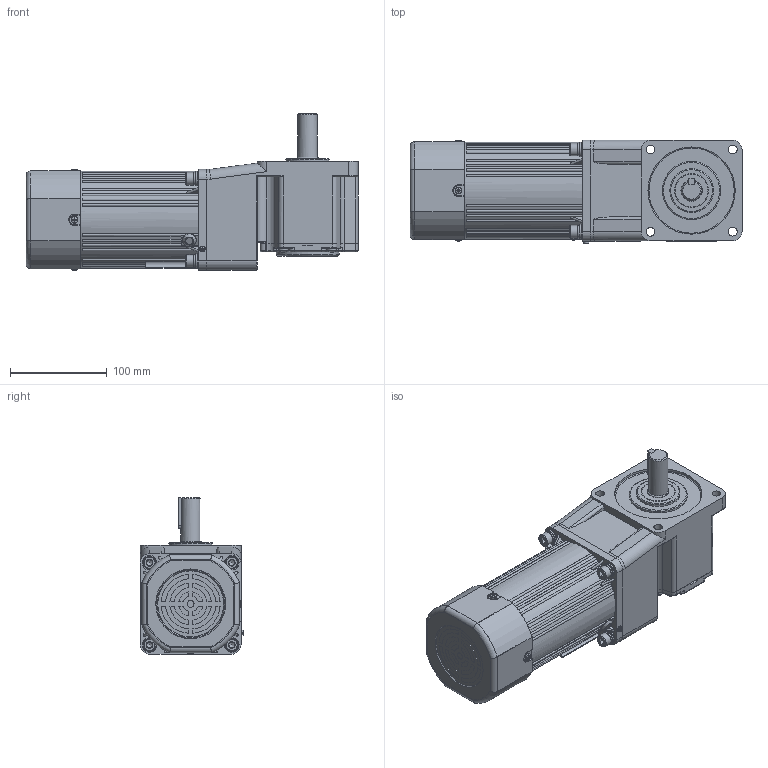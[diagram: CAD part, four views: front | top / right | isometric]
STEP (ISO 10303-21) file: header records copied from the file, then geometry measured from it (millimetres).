
FILE_DESCRIPTION(/* description */ (''),/* implementation_level */ '2;1');
FILE_NAME(/* name */ '100+直角中实-刹车风叶-160-250W 新版.stp',/* time_stamp */ '2025-03-25T15:38:28+08:00',/* author */ (''),/* organization */ (''),/* preprocessor_version */ 'ST-DEVELOPER v18.102',/* originating_system */ 'SIEMENS PLM Software NX 2027',/* authorisation */ '');
FILE_SCHEMA (('AP203_CONFIGURATION_CONTROLLED_3D_DESIGN_OF_MECHANICAL_PARTS_AND_ASSEMBLIES_MIM_LF { 1 0 10303 403 2 1 2}'));
Length unit declared in the file: millimetre
Products named in the file (1): 6RK160-200CC·MF_6GU3-750K-C·15L_stp_M066166857A1n
lpr
Bounding box: 342.5 x 106.83 x 161.53 mm (x, y, z)
Volume: 3292187.2 mm3; surface area: 417973.3 mm2
Topology: 25 solids, 25 shells, 1651 faces, 4259 edges, 2752 vertices
Faces by surface type: plane 701, cylinder 523, bspline 215, torus 99, cone 89, sphere 24
Full cylindrical faces by diameter (mm): 2.6 x2, 2.7 x1, 3 x3, 3.2 x2, 3.3 x4, 3.5 x4, 3.6 x4, 4 x4, 5.1 x2, 6 x10, 6.8 x12, 7 x2, 7.5 x2, 7.76 x4, 8.4 x4, 9 x13, 9.3 x1, 9.5 x4, 13 x4, 14 x8, 15 x5, 15.5 x2, 19 x2, 20 x1, 22 x1, 27 x1, 28 x1, 30 x3, 35 x2, 37 x1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
Entity records: 51151 total; most frequent: CARTESIAN_POINT 13027, ORIENTED_EDGE 7782, DIRECTION 7471, EDGE_CURVE 3891, AXIS2_PLACEMENT_3D 2980, VERTEX_POINT 2625, EDGE_LOOP 2075, ADVANCED_FACE 1650
